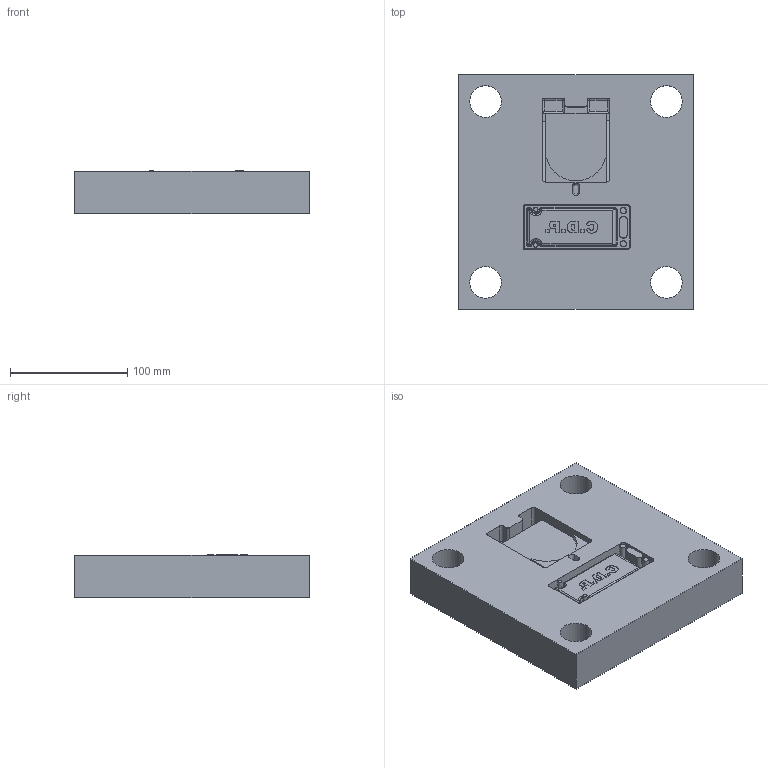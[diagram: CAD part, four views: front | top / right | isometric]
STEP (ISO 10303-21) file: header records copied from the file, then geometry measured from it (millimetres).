
FILE_DESCRIPTION( ( 'Unknown' ), '1' );
FILE_NAME( 'C:/Drawings/CDP/Support Bracket 91 Pitch And Shaft Support/Loose Support and 300 Shaft Support/Tooldrawings/MH Die Plate Outer Solid.stp', 'Unknown', ( 'Unknown' ), ( 'Unknown' ), 'XStep 1.0', 'Unknown', ' ' );
FILE_SCHEMA( ( 'CONFIG_CONTROL_DESIGN' ) );
Length unit declared in the file: millimetre
Products named in the file (1): 1
Bounding box: 200 x 200 x 37.18 mm (x, y, z)
Volume: 1295122 mm3; surface area: 133421.2 mm2
Topology: 1 solids, 1 shells, 199 faces, 463 edges, 278 vertices
Faces by surface type: plane 83, cylinder 56, cone 20, torus 18, bspline 8, extrusion 6, revolution 4, sphere 4
Full cylindrical faces by diameter (mm): 10.106 x4, 20 x1, 27 x4, 32 x4
Entity records: 8012 total; most frequent: CARTESIAN_POINT 3602, DIRECTION 906, ORIENTED_EDGE 848, EDGE_CURVE 424, AXIS2_PLACEMENT_3D 334, VERTEX_POINT 274, EDGE_LOOP 250, VECTOR 234
